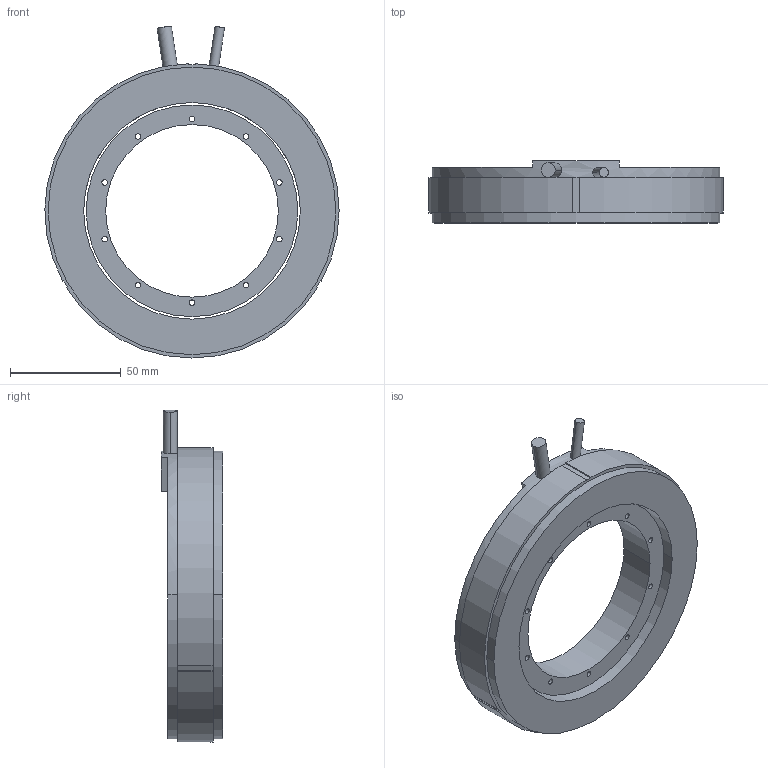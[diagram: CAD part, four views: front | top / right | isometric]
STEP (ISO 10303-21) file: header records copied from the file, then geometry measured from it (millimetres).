
FILE_DESCRIPTION (( 'STEP AP203' ), '1' );
FILE_NAME ('TMX133-25 3D.STEP', '2022-11-23T02:14:38', ( '' ), ( '' ), 'SwSTEP 2.0', 'SolidWorks 2021', '' );
FILE_SCHEMA (( 'CONFIG_CONTROL_DESIGN' ));
Length unit declared in the file: millimetre
Products named in the file (3): TMX133-25 3D; TMX133-25 KIT; TM133-25 3D
Assembly tree (2 placements, depth 2):
  TMX133-25 3D
    TM133-25 3D
    TMX133-25 KIT
Bounding box: 133 x 28 x 150.04 mm (x, y, z)
Volume: 195244.7 mm3; surface area: 46849.4 mm2
Topology: 2 solids, 2 shells, 58 faces, 153 edges, 102 vertices
Faces by surface type: cylinder 38, plane 20
Entity records: 2300 total; most frequent: CARTESIAN_POINT 440, DIRECTION 351, ORIENTED_EDGE 306, EDGE_CURVE 153, AXIS2_PLACEMENT_3D 139, VERTEX_POINT 102, EDGE_LOOP 85, CIRCLE 76
